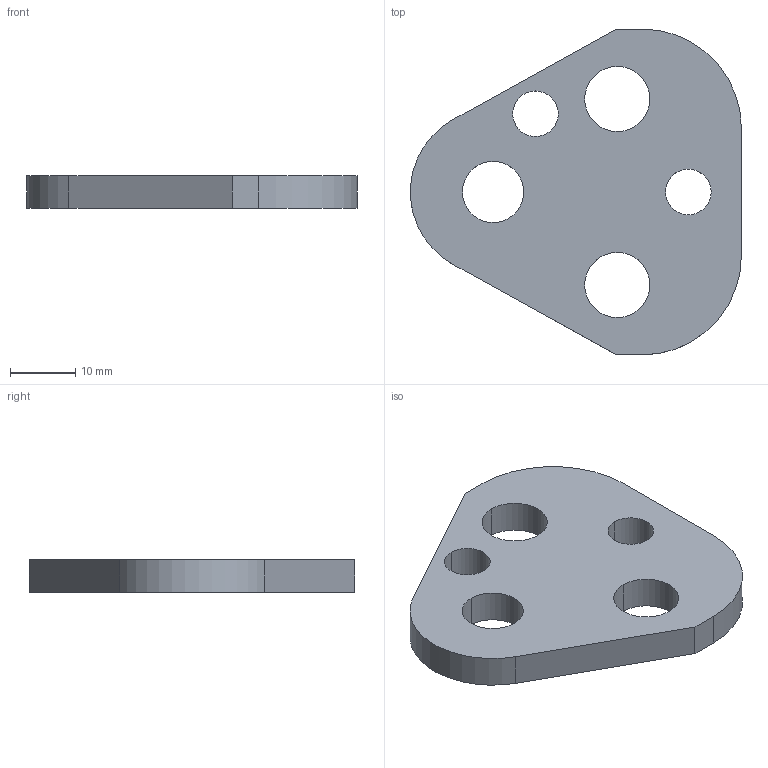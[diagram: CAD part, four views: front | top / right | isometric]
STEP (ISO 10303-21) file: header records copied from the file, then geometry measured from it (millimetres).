
FILE_DESCRIPTION(/* description */ (''),/* implementation_level */ '2;1');
FILE_NAME(/* name */ '3d_crnbd13_03632_r00.stp',/* time_stamp */ '2011-01-10T14:16:19+09:00',/* author */ ('MISUMI'),/* organization */ (''),/* preprocessor_version */ 'ST-DEVELOPER v11',/* originating_system */ 'UGS - NX 5.0',/* authorisation */ '');
FILE_SCHEMA (('CONFIG_CONTROL_DESIGN'));
Length unit declared in the file: millimetre
Products named in the file (1): 3d_crnbd13_03632_r00
Bounding box: 50.76 x 50 x 5 mm (x, y, z)
Volume: 7827 mm3; surface area: 4611 mm2
Topology: 1 solids, 1 shells, 20 faces, 54 edges, 36 vertices
Faces by surface type: cylinder 13, plane 7
Entity records: 750 total; most frequent: DIRECTION 122, CARTESIAN_POINT 111, ORIENTED_EDGE 108, EDGE_CURVE 54, AXIS2_PLACEMENT_3D 47, VERTEX_POINT 36, EDGE_LOOP 30, LINE 28
